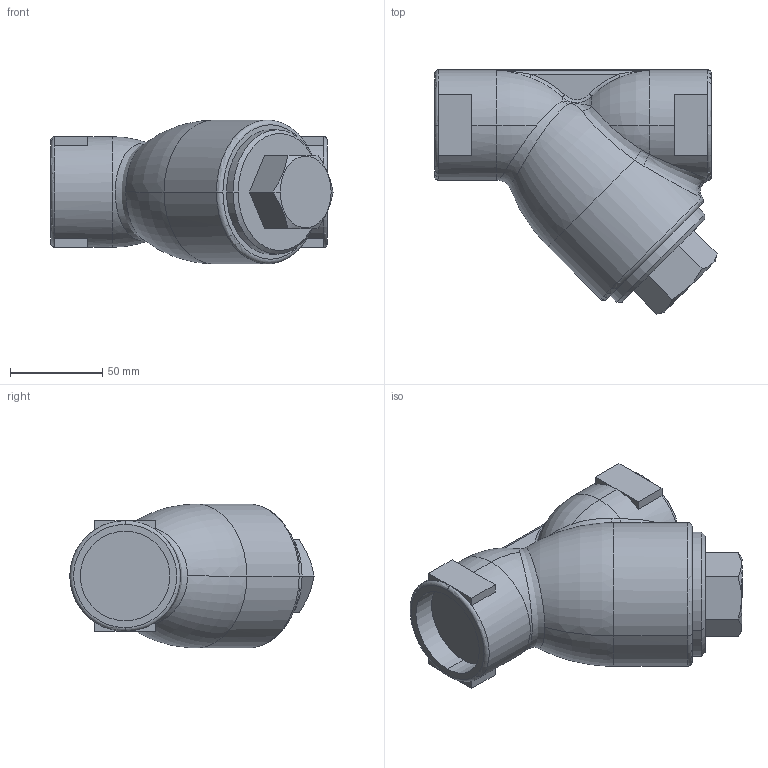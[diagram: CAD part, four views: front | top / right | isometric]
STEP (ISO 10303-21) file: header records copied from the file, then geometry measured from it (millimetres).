
FILE_DESCRIPTION (( 'STEP AP203' ), '1' );
FILE_NAME ('SY-17 40A.STEP', '2025-09-30T00:36:38', ( '' ), ( '' ), 'SwSTEP 2.0', 'SolidWorks 2024', '' );
FILE_SCHEMA (( 'CONFIG_CONTROL_DESIGN' ));
Length unit declared in the file: millimetre
Products named in the file (1): SY-17 40A
Bounding box: 153.04 x 132.54 x 77.92 mm (x, y, z)
Volume: 687578.4 mm3; surface area: 56557.7 mm2
Topology: 1 solids, 1 shells, 102 faces, 234 edges, 134 vertices
Faces by surface type: plane 43, bspline 22, torus 19, cylinder 14, cone 4
Entity records: 4790 total; most frequent: CARTESIAN_POINT 2587, ORIENTED_EDGE 460, DIRECTION 423, EDGE_CURVE 230, AXIS2_PLACEMENT_3D 172, VERTEX_POINT 134, EDGE_LOOP 106, ADVANCED_FACE 102
